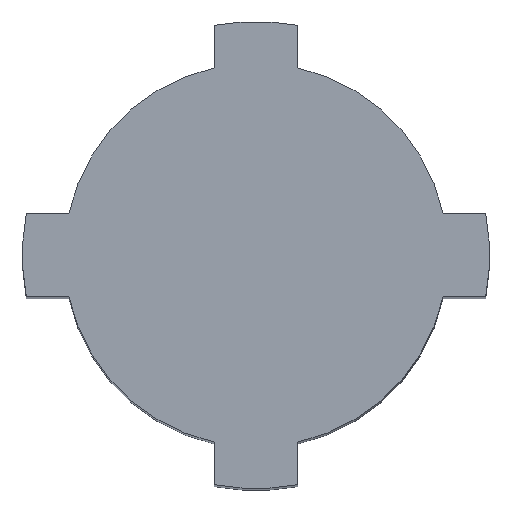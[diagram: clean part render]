
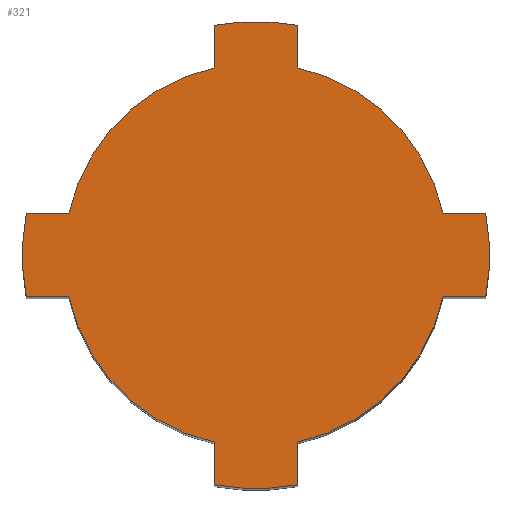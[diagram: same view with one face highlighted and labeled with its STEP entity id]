
A CAD part, top view. The second image highlights one B-rep face of the part: STEP entity #321.
In plain terms, the highlighted planar face has unit normal (0, 0, 1).
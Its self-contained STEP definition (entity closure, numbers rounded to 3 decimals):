
#189=AXIS2_PLACEMENT_3D('Plane Axis2P3D',#186,#187,#188) ;
#193=AXIS2_PLACEMENT_3D('Circle Axis2P3D',#191,#192,$) ;
#209=AXIS2_PLACEMENT_3D('Circle Axis2P3D',#207,#208,$) ;
#223=AXIS2_PLACEMENT_3D('Circle Axis2P3D',#221,#222,$) ;
#237=AXIS2_PLACEMENT_3D('Circle Axis2P3D',#235,#236,$) ;
#251=AXIS2_PLACEMENT_3D('Circle Axis2P3D',#249,#250,$) ;
#265=AXIS2_PLACEMENT_3D('Circle Axis2P3D',#263,#264,$) ;
#279=AXIS2_PLACEMENT_3D('Circle Axis2P3D',#277,#278,$) ;
#293=AXIS2_PLACEMENT_3D('Circle Axis2P3D',#291,#292,$) ;
#186=CARTESIAN_POINT('Axis2P3D Location',(0.,0.,40.)) ;
#191=CARTESIAN_POINT('Axis2P3D Location',(0.,0.,40.)) ;
#195=CARTESIAN_POINT('Vertex',(6.735,1.5,40.)) ;
#197=CARTESIAN_POINT('Vertex',(1.5,6.735,40.)) ;
#200=CARTESIAN_POINT('Line Origine',(1.5,7.5,40.)) ;
#204=CARTESIAN_POINT('Vertex',(1.5,8.265,40.)) ;
#207=CARTESIAN_POINT('Axis2P3D Location',(0.,0.,40.)) ;
#211=CARTESIAN_POINT('Vertex',(-1.5,8.265,40.)) ;
#214=CARTESIAN_POINT('Line Origine',(-1.5,7.5,40.)) ;
#218=CARTESIAN_POINT('Vertex',(-1.5,6.735,40.)) ;
#221=CARTESIAN_POINT('Axis2P3D Location',(0.,0.,40.)) ;
#225=CARTESIAN_POINT('Vertex',(-6.735,1.5,40.)) ;
#228=CARTESIAN_POINT('Line Origine',(-7.5,1.5,40.)) ;
#232=CARTESIAN_POINT('Vertex',(-8.265,1.5,40.)) ;
#235=CARTESIAN_POINT('Axis2P3D Location',(0.,0.,40.)) ;
#239=CARTESIAN_POINT('Vertex',(-8.265,-1.5,40.)) ;
#242=CARTESIAN_POINT('Line Origine',(-7.5,-1.5,40.)) ;
#246=CARTESIAN_POINT('Vertex',(-6.735,-1.5,40.)) ;
#249=CARTESIAN_POINT('Axis2P3D Location',(0.,0.,40.)) ;
#253=CARTESIAN_POINT('Vertex',(-1.5,-6.735,40.)) ;
#256=CARTESIAN_POINT('Line Origine',(-1.5,-7.5,40.)) ;
#260=CARTESIAN_POINT('Vertex',(-1.5,-8.265,40.)) ;
#263=CARTESIAN_POINT('Axis2P3D Location',(0.,0.,40.)) ;
#267=CARTESIAN_POINT('Vertex',(1.5,-8.265,40.)) ;
#270=CARTESIAN_POINT('Line Origine',(1.5,-7.5,40.)) ;
#274=CARTESIAN_POINT('Vertex',(1.5,-6.735,40.)) ;
#277=CARTESIAN_POINT('Axis2P3D Location',(0.,0.,40.)) ;
#281=CARTESIAN_POINT('Vertex',(6.735,-1.5,40.)) ;
#284=CARTESIAN_POINT('Line Origine',(7.5,-1.5,40.)) ;
#288=CARTESIAN_POINT('Vertex',(8.265,-1.5,40.)) ;
#291=CARTESIAN_POINT('Axis2P3D Location',(0.,0.,40.)) ;
#295=CARTESIAN_POINT('Vertex',(8.265,1.5,40.)) ;
#298=CARTESIAN_POINT('Line Origine',(7.5,1.5,40.)) ;
#187=DIRECTION('Axis2P3D Direction',(0.,0.,1.)) ;
#188=DIRECTION('Axis2P3D XDirection',(1.,0.,0.)) ;
#192=DIRECTION('Axis2P3D Direction',(0.,0.,1.)) ;
#201=DIRECTION('Vector Direction',(0.,1.,0.)) ;
#208=DIRECTION('Axis2P3D Direction',(0.,0.,1.)) ;
#215=DIRECTION('Vector Direction',(0.,-1.,0.)) ;
#222=DIRECTION('Axis2P3D Direction',(0.,0.,1.)) ;
#229=DIRECTION('Vector Direction',(1.,0.,0.)) ;
#236=DIRECTION('Axis2P3D Direction',(0.,0.,1.)) ;
#243=DIRECTION('Vector Direction',(-1.,0.,0.)) ;
#250=DIRECTION('Axis2P3D Direction',(0.,0.,1.)) ;
#257=DIRECTION('Vector Direction',(0.,-1.,0.)) ;
#264=DIRECTION('Axis2P3D Direction',(0.,0.,1.)) ;
#271=DIRECTION('Vector Direction',(0.,1.,0.)) ;
#278=DIRECTION('Axis2P3D Direction',(0.,0.,1.)) ;
#285=DIRECTION('Vector Direction',(-1.,0.,0.)) ;
#292=DIRECTION('Axis2P3D Direction',(0.,0.,1.)) ;
#299=DIRECTION('Vector Direction',(1.,0.,0.)) ;
#202=VECTOR('Line Direction',#201,1.) ;
#216=VECTOR('Line Direction',#215,1.) ;
#230=VECTOR('Line Direction',#229,1.) ;
#244=VECTOR('Line Direction',#243,1.) ;
#258=VECTOR('Line Direction',#257,1.) ;
#272=VECTOR('Line Direction',#271,1.) ;
#286=VECTOR('Line Direction',#285,1.) ;
#300=VECTOR('Line Direction',#299,1.) ;
#304=ORIENTED_EDGE('',*,*,#199,.T.) ;
#305=ORIENTED_EDGE('',*,*,#206,.T.) ;
#306=ORIENTED_EDGE('',*,*,#213,.T.) ;
#307=ORIENTED_EDGE('',*,*,#220,.T.) ;
#308=ORIENTED_EDGE('',*,*,#227,.T.) ;
#309=ORIENTED_EDGE('',*,*,#234,.T.) ;
#310=ORIENTED_EDGE('',*,*,#241,.T.) ;
#311=ORIENTED_EDGE('',*,*,#248,.T.) ;
#312=ORIENTED_EDGE('',*,*,#255,.T.) ;
#313=ORIENTED_EDGE('',*,*,#262,.T.) ;
#314=ORIENTED_EDGE('',*,*,#269,.T.) ;
#315=ORIENTED_EDGE('',*,*,#276,.T.) ;
#316=ORIENTED_EDGE('',*,*,#283,.T.) ;
#317=ORIENTED_EDGE('',*,*,#290,.T.) ;
#318=ORIENTED_EDGE('',*,*,#297,.T.) ;
#319=ORIENTED_EDGE('',*,*,#302,.T.) ;
#321=ADVANCED_FACE('\X2\96F64EF651E04F554F53\X0\',(#320),#190,.T.) ;
#194=CIRCLE('generated circle',#193,6.9) ;
#210=CIRCLE('generated circle',#209,8.4) ;
#224=CIRCLE('generated circle',#223,6.9) ;
#238=CIRCLE('generated circle',#237,8.4) ;
#252=CIRCLE('generated circle',#251,6.9) ;
#266=CIRCLE('generated circle',#265,8.4) ;
#280=CIRCLE('generated circle',#279,6.9) ;
#294=CIRCLE('generated circle',#293,8.4) ;
#199=EDGE_CURVE('',#196,#198,#194,.T.) ;
#206=EDGE_CURVE('',#198,#205,#203,.T.) ;
#213=EDGE_CURVE('',#205,#212,#210,.T.) ;
#220=EDGE_CURVE('',#212,#219,#217,.T.) ;
#227=EDGE_CURVE('',#219,#226,#224,.T.) ;
#234=EDGE_CURVE('',#226,#233,#231,.F.) ;
#241=EDGE_CURVE('',#233,#240,#238,.T.) ;
#248=EDGE_CURVE('',#240,#247,#245,.F.) ;
#255=EDGE_CURVE('',#247,#254,#252,.T.) ;
#262=EDGE_CURVE('',#254,#261,#259,.T.) ;
#269=EDGE_CURVE('',#261,#268,#266,.T.) ;
#276=EDGE_CURVE('',#268,#275,#273,.T.) ;
#283=EDGE_CURVE('',#275,#282,#280,.T.) ;
#290=EDGE_CURVE('',#282,#289,#287,.F.) ;
#297=EDGE_CURVE('',#289,#296,#294,.T.) ;
#302=EDGE_CURVE('',#296,#196,#301,.F.) ;
#303=EDGE_LOOP('',(#304,#305,#306,#307,#308,#309,#310,#311,#312,#313,#314,#315,#316,#317,#318,#319)) ;
#320=FACE_OUTER_BOUND('',#303,.T.) ;
#203=LINE('Line',#200,#202) ;
#217=LINE('Line',#214,#216) ;
#231=LINE('Line',#228,#230) ;
#245=LINE('Line',#242,#244) ;
#259=LINE('Line',#256,#258) ;
#273=LINE('Line',#270,#272) ;
#287=LINE('Line',#284,#286) ;
#301=LINE('Line',#298,#300) ;
#190=PLANE('',#189) ;
#196=VERTEX_POINT('',#195) ;
#198=VERTEX_POINT('',#197) ;
#205=VERTEX_POINT('',#204) ;
#212=VERTEX_POINT('',#211) ;
#219=VERTEX_POINT('',#218) ;
#226=VERTEX_POINT('',#225) ;
#233=VERTEX_POINT('',#232) ;
#240=VERTEX_POINT('',#239) ;
#247=VERTEX_POINT('',#246) ;
#254=VERTEX_POINT('',#253) ;
#261=VERTEX_POINT('',#260) ;
#268=VERTEX_POINT('',#267) ;
#275=VERTEX_POINT('',#274) ;
#282=VERTEX_POINT('',#281) ;
#289=VERTEX_POINT('',#288) ;
#296=VERTEX_POINT('',#295) ;
